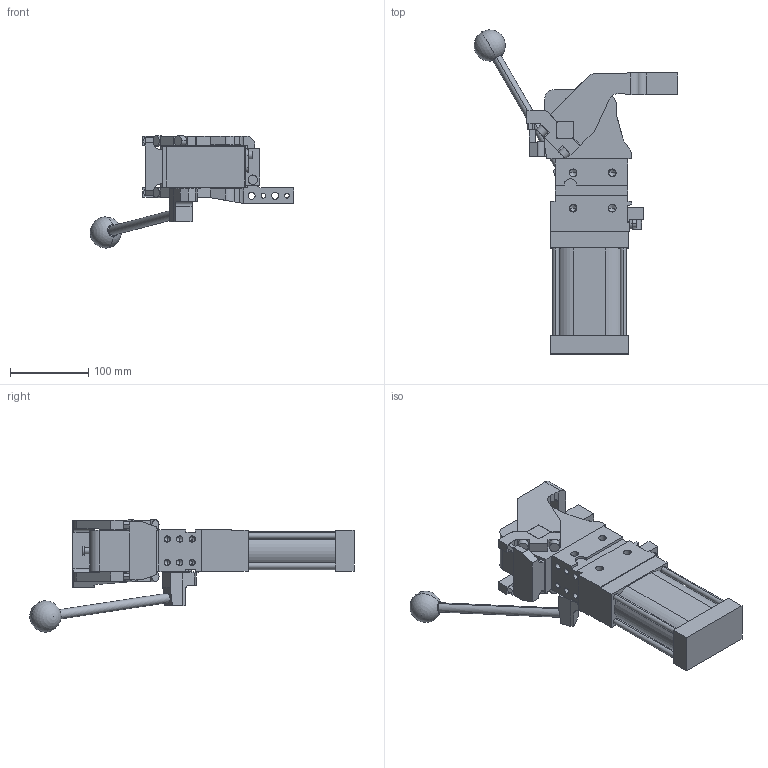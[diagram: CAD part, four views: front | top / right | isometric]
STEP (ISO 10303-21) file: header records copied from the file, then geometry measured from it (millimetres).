
FILE_DESCRIPTION (( 'STEP AP214' ), '1' );
FILE_NAME ('cplm63lbtv3dsi1g_26.STEP', '2023-01-26T15:05:59', ( '' ), ( '' ), 'SwSTEP 2.0', 'SolidWorks 2022', '' );
FILE_SCHEMA (( 'AUTOMOTIVE_DESIGN' ));
Length unit declared in the file: millimetre
Products named in the file (5): cplm63lbtv3dsi1g_26; blocchetto_VEP_0; leva_v3ds_cpl63t; comando_manuale_cplm_63; meccanica_cplm_63_tassello_esterno
Assembly tree (4 placements, depth 2):
  cplm63lbtv3dsi1g_26
    meccanica_cplm_63_tassello_esterno
    blocchetto_VEP_0
    leva_v3ds_cpl63t
    comando_manuale_cplm_63
Bounding box: 260.54 x 414.46 x 143.5 mm (x, y, z)
Volume: 1930949.9 mm3; surface area: 221154.3 mm2
Topology: 4 solids, 4 shells, 469 faces, 1239 edges, 773 vertices
Faces by surface type: plane 250, cylinder 167, cone 50, sphere 2
Entity records: 15764 total; most frequent: CARTESIAN_POINT 2534, DIRECTION 2493, ORIENTED_EDGE 2376, EDGE_CURVE 1188, AXIS2_PLACEMENT_3D 843, LINE 807, VECTOR 807, VERTEX_POINT 770
